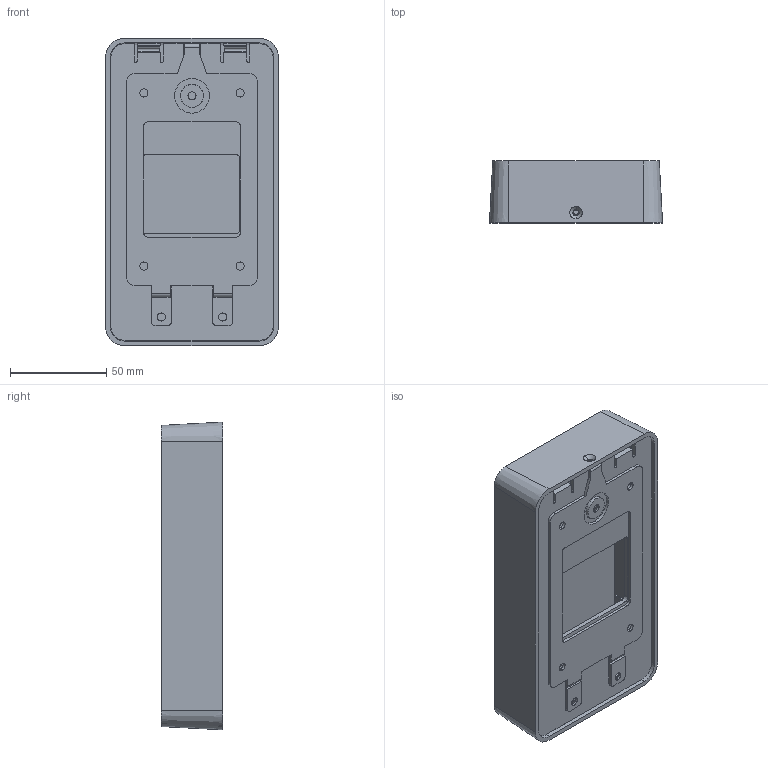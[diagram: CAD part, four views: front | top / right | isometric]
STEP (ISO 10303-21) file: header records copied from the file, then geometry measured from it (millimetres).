
FILE_DESCRIPTION (( 'STEP AP203' ), '1' );
FILE_NAME ('DM-065-0-0.STEP', '2024-06-12T13:07:05', ( '' ), ( '' ), 'SwSTEP 2.0', 'SolidWorks 2021', '' );
FILE_SCHEMA (( 'CONFIG_CONTROL_DESIGN' ));
Length unit declared in the file: millimetre
Products named in the file (4): DM-065_taban; A-374-P-1; DM-065-0-0; DM-065_govde
Assembly tree (3 placements, depth 2):
  DM-065-0-0
    DM-065_taban
    DM-065_govde
    A-374-P-1
Bounding box: 90 x 32 x 160 mm (x, y, z)
Volume: 102733.7 mm3; surface area: 95362.6 mm2
Topology: 3 solids, 3 shells, 434 faces, 1148 edges, 744 vertices
Faces by surface type: plane 272, cone 102, cylinder 54, bspline 6
Entity records: 14612 total; most frequent: CARTESIAN_POINT 3282, ORIENTED_EDGE 2296, DIRECTION 2234, EDGE_CURVE 1148, VECTOR 830, LINE 830, VERTEX_POINT 744, AXIS2_PLACEMENT_3D 702
